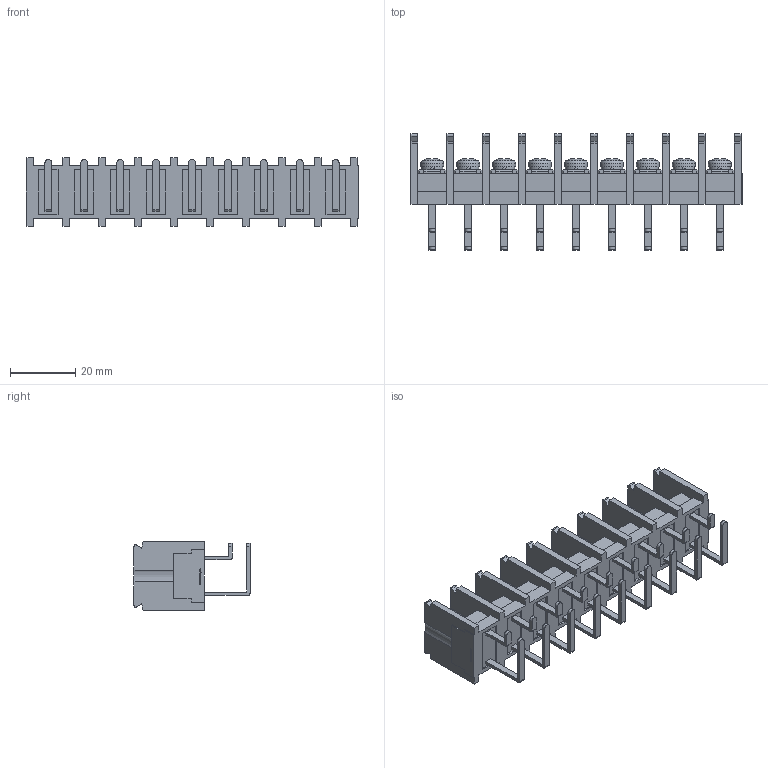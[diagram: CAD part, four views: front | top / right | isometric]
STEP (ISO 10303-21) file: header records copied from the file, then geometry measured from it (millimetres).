
FILE_DESCRIPTION(/* description */ ('Alibre Inc.'),/* implementation_level */ '2;1');
FILE_NAME(/* name */ 'export0',/* time_stamp */ '2015-12-02T12:54:03+09:00',/* author */ (''),/* organization */ (''),/* preprocessor_version */ 'ST-DEVELOPER v14',/* originating_system */ 'Alibre',/* authorisation */ '');
FILE_SCHEMA (('CONFIG_CONTROL_DESIGN'));
Length unit declared in the file: centimetre
Products named in the file (1): ID_1
Bounding box: 101.6 x 35.5 x 21 mm (x, y, z)
Volume: 18936.5 mm3; surface area: 21394.7 mm2
Topology: 1 solids, 17 shells, 1373 faces, 3750 edges, 2494 vertices
Faces by surface type: plane 1076, cylinder 130, bspline 104, cone 45, sphere 9, torus 9
Full cylindrical faces by diameter (mm): 4 x9, 6.5 x9, 7 x9
Entity records: 41457 total; most frequent: CARTESIAN_POINT 8635, ORIENTED_EDGE 7428, DIRECTION 5239, EDGE_CURVE 3714, VECTOR 2845, LINE 2845, VERTEX_POINT 2494, AXIS2_PLACEMENT_3D 1688
